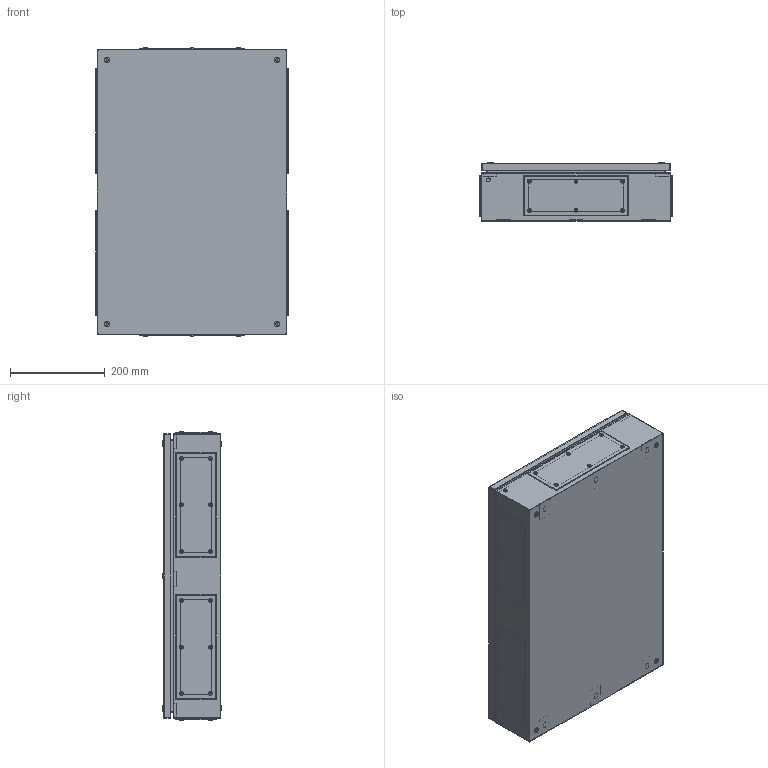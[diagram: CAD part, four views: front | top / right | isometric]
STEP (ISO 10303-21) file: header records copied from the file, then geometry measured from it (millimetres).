
FILE_DESCRIPTION(('Open CASCADE Model'),'2;1');
FILE_NAME('Open CASCADE Shape Model','2025-11-18T11:06:01',('Author'),( 'Open CASCADE'),'Open CASCADE STEP processor 7.8','Open CASCADE 7.8' ,'Unknown');
FILE_SCHEMA(('AUTOMOTIVE_DESIGN { 1 0 10303 214 1 1 1 1 }'));
Length unit declared in the file: millimetre
Products named in the file (21): Compound1; Compound2; Compound3; Solid1; Solid2; Solid3; Solid4; Solid5; Solid6; Compound4; Compound5; Solid7; Solid8; Solid9; Compound6; Solid10; Solid11; Solid12; Solid13; Solid14; Solid15
Assembly tree (95 placements, depth 5):
  Compound1
    Compound2
      Compound3
        Solid1
        Solid2  x2
        Solid3  x2
        Solid4  x2
        Solid5
        Solid6  x2
      Compound4
        Compound5
          Solid7
          Solid5
        Solid8
      Solid9  x6
      Compound6  x6
        Solid10
        Solid11
      Solid12  x12
      Solid13  x6
      Solid14  x6
    Solid15  x4
    Solid12  x36
Bounding box: 409 x 123.79 x 609 mm (x, y, z)
Volume: 1308107.3 mm3; surface area: 1889267.1 mm2
Topology: 95 solids, 95 shells, 3133 faces, 8090 edges, 5181 vertices
Faces by surface type: plane 1972, cylinder 581, cone 440, torus 88, bspline 40, sphere 12
Full cylindrical faces by diameter (mm): 1.5 x4, 3.5 x36, 4 x78, 4.134 x6, 5 x10, 5.2 x6, 5.3 x6, 5.5 x6, 6 x2, 6.5 x4, 7.5 x8, 8 x11, 8.4 x48, 8.5 x6, 11.5 x4, 13.5 x6, 15.791 x6
Entity records: 24218 total; most frequent: CARTESIAN_POINT 6570, ORIENTED_EDGE 3618, DIRECTION 3413, EDGE_CURVE 1809, VERTEX_POINT 1201, AXIS2_PLACEMENT_3D 1179, LINE 1055, VECTOR 1055
